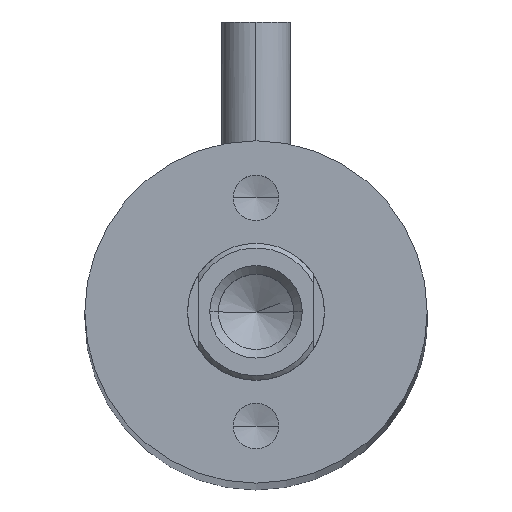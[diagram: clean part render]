
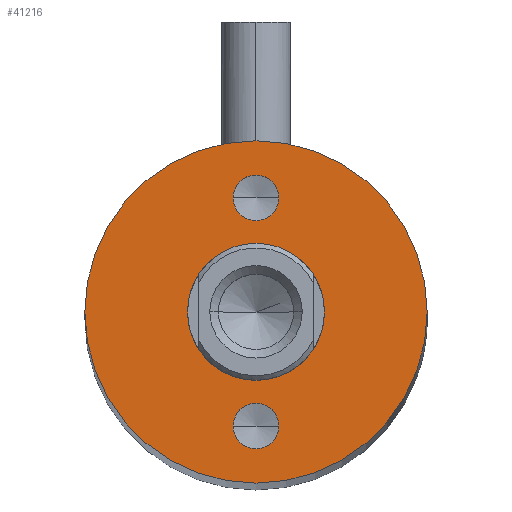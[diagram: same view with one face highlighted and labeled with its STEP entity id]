
A CAD part, top view. The second image highlights one B-rep face of the part: STEP entity #41216.
In plain terms, the highlighted planar face has unit normal (0, 0, 1).
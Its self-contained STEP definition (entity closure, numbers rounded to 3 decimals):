
#136 = DIRECTION ( 'NONE',  ( 1., 0., 0. ) ) ;
#311 = CARTESIAN_POINT ( 'NONE',  ( 0., 0., 172.6 ) ) ;
#881 = DIRECTION ( 'NONE',  ( 0., 0., 1. ) ) ;
#903 = EDGE_CURVE ( 'NONE', #32953, #3428, #48571, .T. ) ;
#1352 = AXIS2_PLACEMENT_3D ( 'NONE', #24617, #28402, #8458 ) ;
#2356 = EDGE_CURVE ( 'NONE', #6796, #9410, #5828, .T. ) ;
#2468 = ORIENTED_EDGE ( 'NONE', *, *, #48244, .F. ) ;
#3278 = EDGE_CURVE ( 'NONE', #8377, #14616, #41771, .T. ) ;
#3428 = VERTEX_POINT ( 'NONE', #48694 ) ;
#5073 = CARTESIAN_POINT ( 'NONE',  ( 0., 5., 172.6 ) ) ;
#5828 = CIRCLE ( 'NONE', #38965, 7.5 ) ;
#6796 = VERTEX_POINT ( 'NONE', #17382 ) ;
#7243 = DIRECTION ( 'NONE',  ( 0., 0., 1. ) ) ;
#7663 = ORIENTED_EDGE ( 'NONE', *, *, #31186, .F. ) ;
#7748 = FACE_BOUND ( 'NONE', #41544, .T. ) ;
#7756 = DIRECTION ( 'NONE',  ( 1., 0., 0. ) ) ;
#7892 = ORIENTED_EDGE ( 'NONE', *, *, #20941, .F. ) ;
#8377 = VERTEX_POINT ( 'NONE', #10170 ) ;
#8458 = DIRECTION ( 'NONE',  ( 1., 0., 0. ) ) ;
#9249 = DIRECTION ( 'NONE',  ( 1., 0., 0. ) ) ;
#9335 = CIRCLE ( 'NONE', #41096, 7.5 ) ;
#9410 = VERTEX_POINT ( 'NONE', #18345 ) ;
#9877 = EDGE_LOOP ( 'NONE', ( #14881, #23601 ) ) ;
#10170 = CARTESIAN_POINT ( 'NONE',  ( 3., 0., 172.6 ) ) ;
#10287 = EDGE_LOOP ( 'NONE', ( #19218, #7663 ) ) ;
#12298 = CARTESIAN_POINT ( 'NONE',  ( 0., 5., 172.6 ) ) ;
#12306 = DIRECTION ( 'NONE',  ( 1., 0., 0. ) ) ;
#14616 = VERTEX_POINT ( 'NONE', #48429 ) ;
#14881 = ORIENTED_EDGE ( 'NONE', *, *, #2356, .T. ) ;
#15650 = ORIENTED_EDGE ( 'NONE', *, *, #3278, .F. ) ;
#16750 = AXIS2_PLACEMENT_3D ( 'NONE', #36069, #881, #24715 ) ;
#17164 = DIRECTION ( 'NONE',  ( 0., 0., 1. ) ) ;
#17382 = CARTESIAN_POINT ( 'NONE',  ( -7.5, 0., 172.6 ) ) ;
#17744 = CARTESIAN_POINT ( 'NONE',  ( 1., -5., 172.6 ) ) ;
#17759 = EDGE_CURVE ( 'NONE', #9410, #6796, #9335, .T. ) ;
#18345 = CARTESIAN_POINT ( 'NONE',  ( 7.5, 0., 172.6 ) ) ;
#19218 = ORIENTED_EDGE ( 'NONE', *, *, #35208, .F. ) ;
#20121 = VERTEX_POINT ( 'NONE', #17744 ) ;
#20941 = EDGE_CURVE ( 'NONE', #14616, #8377, #24250, .T. ) ;
#21190 = CARTESIAN_POINT ( 'NONE',  ( 0., 0., 172.6 ) ) ;
#22195 = AXIS2_PLACEMENT_3D ( 'NONE', #45061, #17164, #33424 ) ;
#22808 = EDGE_LOOP ( 'NONE', ( #7892, #15650 ) ) ;
#23115 = AXIS2_PLACEMENT_3D ( 'NONE', #28889, #28560, #37132 ) ;
#23601 = ORIENTED_EDGE ( 'NONE', *, *, #17759, .T. ) ;
#23944 = DIRECTION ( 'NONE',  ( 0., 0., 1. ) ) ;
#24250 = CIRCLE ( 'NONE', #1352, 3. ) ;
#24518 = ORIENTED_EDGE ( 'NONE', *, *, #903, .F. ) ;
#24617 = CARTESIAN_POINT ( 'NONE',  ( 0., 0., 172.6 ) ) ;
#24715 = DIRECTION ( 'NONE',  ( 1., 0., 0. ) ) ;
#24809 = AXIS2_PLACEMENT_3D ( 'NONE', #35614, #7243, #7756 ) ;
#25566 = DIRECTION ( 'NONE',  ( 0., 0., 1. ) ) ;
#26976 = FACE_BOUND ( 'NONE', #10287, .T. ) ;
#27587 = AXIS2_PLACEMENT_3D ( 'NONE', #5073, #25566, #9249 ) ;
#28101 = DIRECTION ( 'NONE',  ( 0., 0., 1. ) ) ;
#28402 = DIRECTION ( 'NONE',  ( 0., 0., 1. ) ) ;
#28560 = DIRECTION ( 'NONE',  ( 0., 0., 1. ) ) ;
#28640 = DIRECTION ( 'NONE',  ( 0., 0., 1. ) ) ;
#28803 = DIRECTION ( 'NONE',  ( 1., 0., 0. ) ) ;
#28858 = CARTESIAN_POINT ( 'NONE',  ( -1., -5., 172.6 ) ) ;
#28889 = CARTESIAN_POINT ( 'NONE',  ( 0., -5., 172.6 ) ) ;
#29500 = CIRCLE ( 'NONE', #23115, 1. ) ;
#30058 = FACE_OUTER_BOUND ( 'NONE', #9877, .T. ) ;
#31186 = EDGE_CURVE ( 'NONE', #42076, #20121, #29500, .T. ) ;
#32953 = VERTEX_POINT ( 'NONE', #35420 ) ;
#32976 = AXIS2_PLACEMENT_3D ( 'NONE', #12298, #23944, #136 ) ;
#33424 = DIRECTION ( 'NONE',  ( 1., 0., 0. ) ) ;
#35208 = EDGE_CURVE ( 'NONE', #20121, #42076, #37513, .T. ) ;
#35420 = CARTESIAN_POINT ( 'NONE',  ( 1., 5., 172.6 ) ) ;
#35614 = CARTESIAN_POINT ( 'NONE',  ( 0., -5., 172.6 ) ) ;
#36069 = CARTESIAN_POINT ( 'NONE',  ( 0., 0., 172.6 ) ) ;
#37132 = DIRECTION ( 'NONE',  ( 1., 0., 0. ) ) ;
#37513 = CIRCLE ( 'NONE', #24809, 1. ) ;
#38965 = AXIS2_PLACEMENT_3D ( 'NONE', #311, #28101, #12306 ) ;
#39328 = FACE_BOUND ( 'NONE', #22808, .T. ) ;
#39829 = CIRCLE ( 'NONE', #27587, 1. ) ;
#41096 = AXIS2_PLACEMENT_3D ( 'NONE', #21190, #28640, #28803 ) ;
#41216 = ADVANCED_FACE ( 'NONE', ( #26976, #7748, #39328, #30058 ), #45235, .T. ) ;
#41544 = EDGE_LOOP ( 'NONE', ( #24518, #2468 ) ) ;
#41771 = CIRCLE ( 'NONE', #16750, 3. ) ;
#42076 = VERTEX_POINT ( 'NONE', #28858 ) ;
#45061 = CARTESIAN_POINT ( 'NONE',  ( 0., 0., 172.6 ) ) ;
#45235 = PLANE ( 'NONE',  #22195 ) ;
#48244 = EDGE_CURVE ( 'NONE', #3428, #32953, #39829, .T. ) ;
#48429 = CARTESIAN_POINT ( 'NONE',  ( -3., 0., 172.6 ) ) ;
#48571 = CIRCLE ( 'NONE', #32976, 1. ) ;
#48694 = CARTESIAN_POINT ( 'NONE',  ( -1., 5., 172.6 ) ) ;
